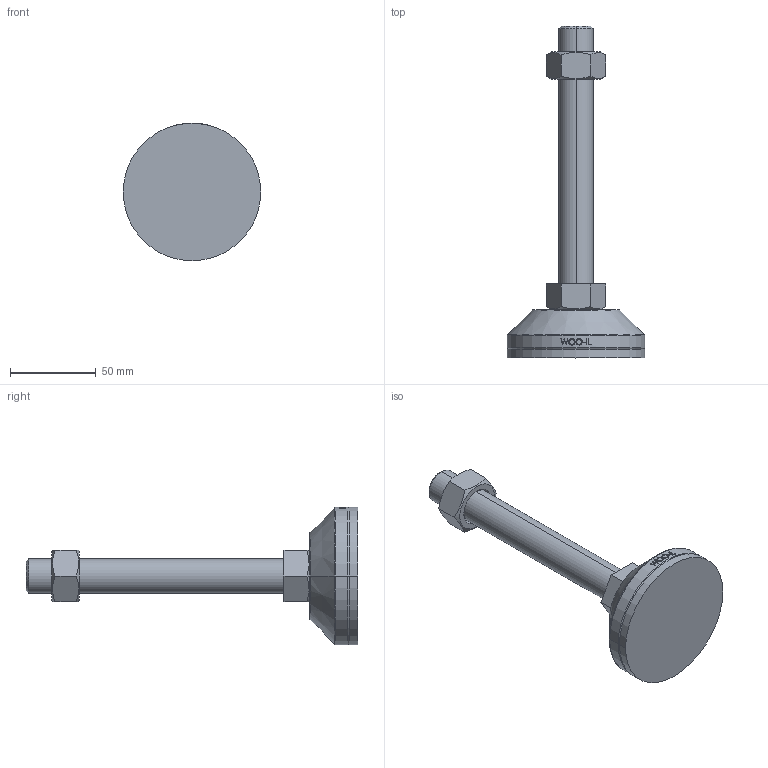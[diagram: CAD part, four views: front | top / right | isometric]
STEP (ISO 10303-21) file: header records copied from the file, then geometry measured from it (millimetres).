
FILE_DESCRIPTION (( 'STEP AP214' ), '1' );
FILE_NAME ('NHNR80-M20-150.step', '2021-01-25T06:22:29', ( '' ), ( '' ), 'SwSTEP 2.0', 'SolidWorks 2019', '' );
FILE_SCHEMA (( 'AUTOMOTIVE_DESIGN' ));
Length unit declared in the file: millimetre
Products named in the file (2): NHNR80-M20-150
Bounding box: 80 x 193 x 80 mm (x, y, z)
Volume: 182002.8 mm3; surface area: 40689.6 mm2
Topology: 4 solids, 4 shells, 105 faces, 243 edges, 156 vertices
Faces by surface type: plane 49, cylinder 18, bspline 16, cone 14, torus 8
Entity records: 4407 total; most frequent: CARTESIAN_POINT 2070, ORIENTED_EDGE 486, DIRECTION 429, EDGE_CURVE 243, AXIS2_PLACEMENT_3D 165, VERTEX_POINT 156, EDGE_LOOP 117, ADVANCED_FACE 105
